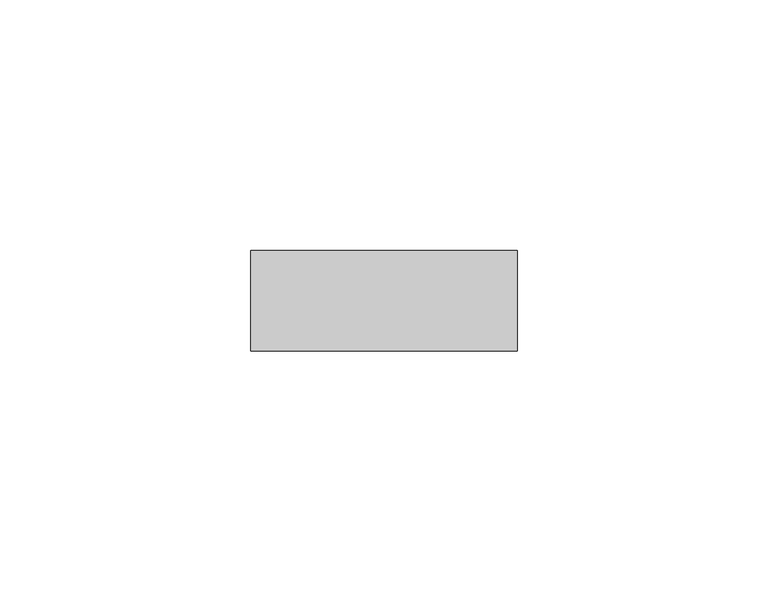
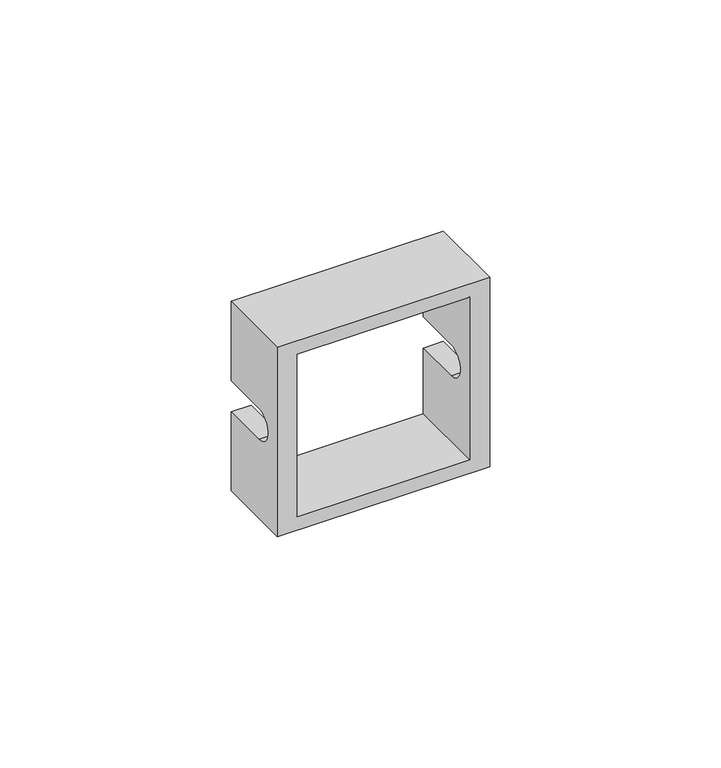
"""IFC4 building model written with IfcOpenShell, lengths in millimetres: proxy geometry, КНС_КаркасНа2МодуляДляМонтажаЭлектроустановочныхИзделий_ILF_DKC : Brava."""

from ifc_helpers import new_model, si_unit, frame, origin, place, context, project, spatial, polyline, circle_curve, source, transform, mapped, element, save
from ifc_brep_helpers import plane_surface, revolved_surface, advanced_brep


def electrical_fixtures_e2bc58bc(model_context):
    return source(origin(), model_context, "Body", "AdvancedBrep", [
        advanced_brep(
        [(21.5, -20.0, 21.5), (21.5, 0.0, 21.5), (21.5, 0.0, 4.1000022), (21.5, -11.9782075, 4.1000022), (21.5, -11.9782075, -4.1000022), (21.5, 0.0, -4.1000022), (21.5, 0.0, -21.5), (21.5, -20.0, -21.5), (-21.5, -20.0, -21.5), (-21.5, 0.0, -21.5), (-21.5, 0.0, -4.1000022), (-21.5, -11.9782075, -4.1000022), (-21.5, -11.9782075, 4.1000022), (-21.5, 0.0, 4.1000022), (-21.5, 0.0, 21.5), (-21.5, -20.0, 21.5), (26.5, 0.0, 25.0), (26.5, -20.0, 25.0), (26.5, -20.0, -25.0), (26.5, 0.0, -25.0), (26.5, 0.0, -4.1000022), (26.5, -11.9782075, -4.1000022), (26.5, -11.9782075, 4.1000022), (26.5, 0.0, 4.1000022), (-26.5, 0.0, 25.0), (-26.5, 0.0, 4.1000022), (-26.5, -11.9782075, 4.1000022), (-26.5, -11.9782075, -4.1000022), (-26.5, 0.0, -4.1000022), (-26.5, 0.0, -25.0), (-26.5, -20.0, -25.0), (-26.5, -20.0, 25.0)],
        [
            (0, 1),
            (1, 2),
            (2, 3),
            (3, 4, circle_curve(frame((21.5, -11.9782075, 0.0), z_axis=(1.0, 0.0, 0.0), x_axis=(0.0, 1.0, 0.0)), 4.1000022)),
            (4, 5),
            (5, 6),
            (6, 7),
            (7, 0),
            (8, 9),
            (9, 10),
            (10, 11),
            (11, 12, circle_curve(frame((-21.5, -11.9782075, 0.0), z_axis=(-1.0, 0.0, 0.0), x_axis=(0.0, 1.0, 0.0)), 4.1000022)),
            (12, 13),
            (13, 14),
            (14, 15),
            (15, 8),
            (0, 15),
            (14, 1),
            (6, 9),
            (8, 7),
            (16, 17),
            (17, 18),
            (18, 19),
            (19, 20),
            (20, 21),
            (21, 22, circle_curve(frame((26.5, -11.9782075, 0.0), z_axis=(-1.0, 0.0, 0.0), x_axis=(0.0, 1.0, 0.0)), 4.1000022)),
            (22, 23),
            (23, 16),
            (24, 25),
            (25, 26),
            (26, 27, circle_curve(frame((-26.5, -11.9782075, 0.0), z_axis=(1.0, 0.0, 0.0), x_axis=(0.0, 1.0, 0.0)), 4.1000022)),
            (27, 28),
            (28, 29),
            (29, 30),
            (30, 31),
            (31, 24),
            (16, 24),
            (31, 17),
            (30, 18),
            (29, 19),
            (28, 10),
            (5, 20),
            (4, 21),
            (27, 11),
            (3, 22),
            (26, 12),
            (2, 23),
            (25, 13),
        ],
        [
            plane_surface(frame((21.5, -20.0, 21.5), z_axis=(-1.0, 0.0, 0.0), x_axis=(0.0, 0.0, -1.0))),
            plane_surface(frame((-21.5, -20.0, 21.5), z_axis=(1.0, 0.0, 0.0), x_axis=(0.0, 0.0, 1.0))),
            plane_surface(frame((21.5, 0.0, 21.5), z_axis=(0.0, 0.0, -1.0), x_axis=(-1.0, 0.0, 0.0))),
            plane_surface(frame((21.5, -20.0, -21.5), z_axis=(0.0, 0.0, 1.0), x_axis=(-1.0, 0.0, 0.0))),
            plane_surface(frame((26.5, 0.0, 25.0), z_axis=(1.0, 0.0, 0.0), x_axis=(0.0, -1.0, 0.0))),
            plane_surface(frame((-26.5, 0.0, 25.0), z_axis=(-1.0, 0.0, 0.0), x_axis=(0.0, 1.0, 0.0))),
            plane_surface(frame((26.5, 0.0, 25.0), z_axis=(0.0, 0.0, 1.0), x_axis=(-1.0, 0.0, 0.0))),
            plane_surface(frame((26.5, -20.0, 25.0), z_axis=(0.0, -1.0, 0.0), x_axis=(-1.0, 0.0, 0.0))),
            plane_surface(frame((26.5, -20.0, -25.0), z_axis=(0.0, 0.0, -1.0), x_axis=(-1.0, 0.0, 0.0))),
            plane_surface(frame((26.5, 0.0, -25.0), z_axis=(0.0, 1.0, 0.0), x_axis=(-1.0, 0.0, 0.0))),
            plane_surface(frame((26.5, 0.0, -4.1000022), z_axis=(0.0, 0.0, 1.0), x_axis=(-1.0, 0.0, 0.0))),
            revolved_surface(polyline([(21.5, -7.8782053, 0.0), (26.5, -7.8782053, 0.0)]), (-26.5, -11.9782075, 0.0), (-1.0, 0.0, 0.0)),
            revolved_surface(polyline([(-26.5, -7.8782053, 0.0), (-21.5, -7.8782053, 0.0)]), (-26.5, -11.9782075, 0.0), (-1.0, 0.0, 0.0)),
            plane_surface(frame((26.5, -11.9782075, 4.1000022), z_axis=(0.0, 0.0, -1.0), x_axis=(-1.0, 0.0, 0.0))),
            plane_surface(frame((26.5, 0.0, 4.1000022), z_axis=(0.0, 1.0, 0.0), x_axis=(-1.0, 0.0, 0.0))),
        ],
        [
            (0, [[1, 2, 3, 4, 5, 6, 7, 8]]),
            (1, [[9, 10, 11, 12, 13, 14, 15, 16]]),
            (2, [[-1, 17, -15, 18]]),
            (3, [[-7, 19, -9, 20]]),
            (4, [[21, 22, 23, 24, 25, 26, 27, 28]]),
            (5, [[29, 30, 31, 32, 33, 34, 35, 36]]),
            (6, [[-21, 37, -36, 38]]),
            (7, [[-22, -38, -35, 39], [-8, -20, -16, -17]]),
            (8, [[-23, -39, -34, 40]]),
            (9, [[-24, -40, -33, 41, -10, -19, -6, 42]]),
            (10, [[-25, -42, -5, 43]]),
            (10, [[-32, 44, -11, -41]]),
            (11, [[-26, -43, -4, 45]]),
            (12, [[-31, 46, -12, -44]]),
            (13, [[-27, -45, -3, 47]]),
            (13, [[-30, 48, -13, -46]]),
            (14, [[-28, -47, -2, -18, -14, -48, -29, -37]]),
        ],
    ),
    ])


if __name__ == "__main__":
    model = new_model("IFC4")
    model_context = context("Model", 3, world=origin())
    ifc_project = project(units=[si_unit("LENGTHUNIT", "METRE", prefix="MILLI")], contexts=[model_context])
    site = spatial("IfcSite", under=ifc_project)
    building = spatial("IfcBuilding", under=site)
    placement = place(None, origin())
    electrical_fixtures_shape = electrical_fixtures_e2bc58bc(model_context)
    element("IfcBuildingElementProxy", 1, Name="КНС_КаркасНа2МодуляДляМонтажаЭлектроустановочныхИзделий_ILF_DKC : Brava", ObjectType="КНС_КаркасНа2МодуляДляМонтажаЭлектроустановочныхИзделий_ILF_DKC : Brava", at=placement, inside=building, context=model_context, shape_type="MappedRepresentation", body=[
        mapped(electrical_fixtures_shape, transform((0.0, 0.0, 0.0), x_axis=(1.0, 0.0, 0.0), y_axis=(0.0, 1.0, 0.0), z_axis=(0.0, 0.0, 1.0))),
    ])
    save(model, "model.ifc")
